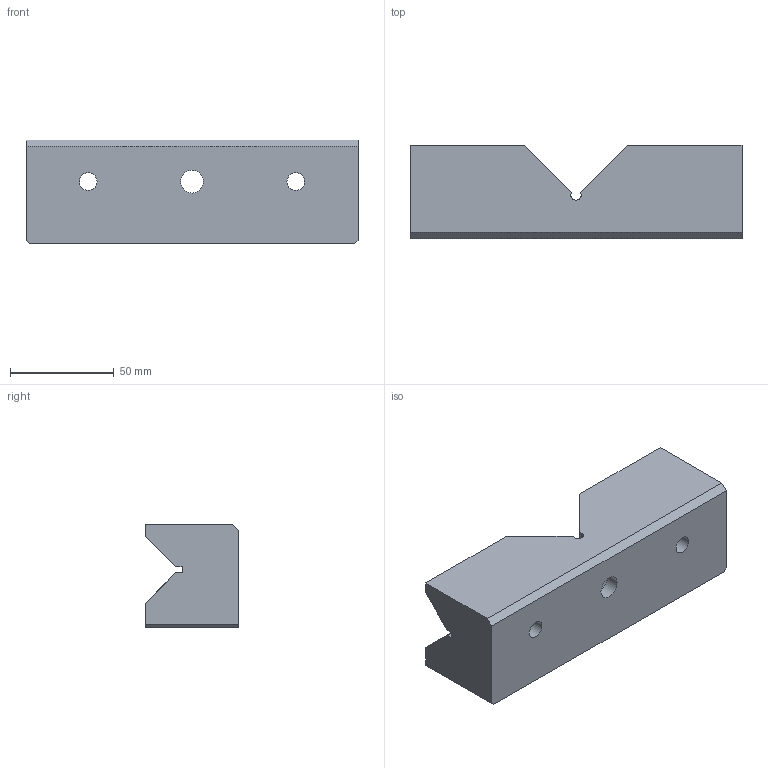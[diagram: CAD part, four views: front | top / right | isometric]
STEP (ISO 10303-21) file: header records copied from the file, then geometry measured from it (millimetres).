
FILE_DESCRIPTION((''),'2;1');
FILE_NAME('FG_VC_BASIC_C0038NP001','2026-02-23T17:25:36',('Admin'),(''),'CREO PARAMETRIC BY PTC INC, 2025010','CREO PARAMETRIC BY PTC INC, 2025010','');
FILE_SCHEMA(('CONFIG_CONTROL_DESIGN'));
Length unit declared in the file: millimetre
Products named in the file (1): FG_VC_BASIC_C0038NP001
Bounding box: 160 x 45 x 50 mm (x, y, z)
Volume: 283448.4 mm3; surface area: 38881.8 mm2
Topology: 1 solids, 1 shells, 49 faces, 141 edges, 94 vertices
Faces by surface type: plane 35, cylinder 14
Entity records: 1733 total; most frequent: CARTESIAN_POINT 398, ORIENTED_EDGE 282, DIRECTION 249, EDGE_CURVE 141, VECTOR 99, LINE 99, VERTEX_POINT 94, AXIS2_PLACEMENT_3D 75
